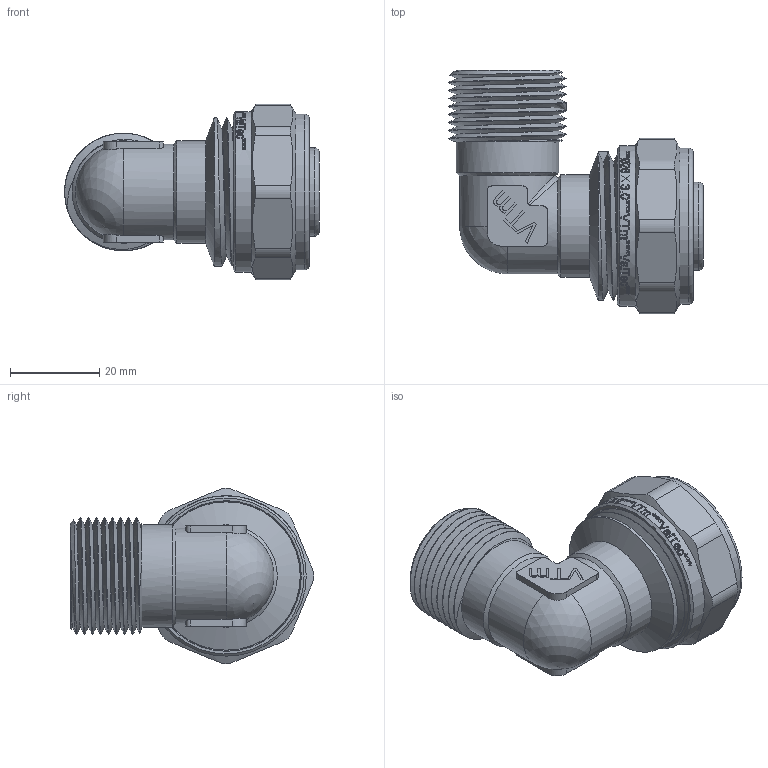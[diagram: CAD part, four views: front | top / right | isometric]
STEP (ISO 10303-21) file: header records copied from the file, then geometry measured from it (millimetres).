
FILE_DESCRIPTION(/* description */ (''),/* implementation_level */ '2;1');
FILE_NAME(/* name */ 'F:\Артём\00000\Работа удаленка\Обжимные фитинги\VTm.353.N.002606.stp',/* time_stamp */ '2020-08-10T13:18:58+03:00',/* author */ ('almis'),/* organization */ (''),/* preprocessor_version */ 'ST-DEVELOPER v18',/* originating_system */ 'Autodesk Inventor 2020',/* authorisation */ '');
FILE_SCHEMA (('AUTOMOTIVE_DESIGN { 1 0 10303 214 3 1 1 }'));
Length unit declared in the file: millimetre
Products named in the file (1): VTm.301.N.001605
Bounding box: 57.2 x 54.69 x 39.39 mm (x, y, z)
Volume: 23625.3 mm3; surface area: 20899.7 mm2
Topology: 1 solids, 1 shells, 793 faces, 2243 edges, 1510 vertices
Faces by surface type: bspline 397, plane 235, cylinder 113, torus 24, cone 22, sphere 2
Full cylindrical faces by diameter (mm): 15 x1, 17 x1, 17.4 x2, 19.8 x5, 20.5 x1, 23 x11, 24.516 x4, 25.435 x5, 26.2 x1, 26.4 x8, 26.7 x1, 28.5 x1, 28.7 x2, 30.5 x1, 33.3 x3, 35 x1, 36 x1
Entity records: 34930 total; most frequent: CARTESIAN_POINT 16955, ORIENTED_EDGE 4482, DIRECTION 2450, EDGE_CURVE 2241, VERTEX_POINT 1510, LINE 994, VECTOR 994, B_SPLINE_CURVE_WITH_KNOTS 900
